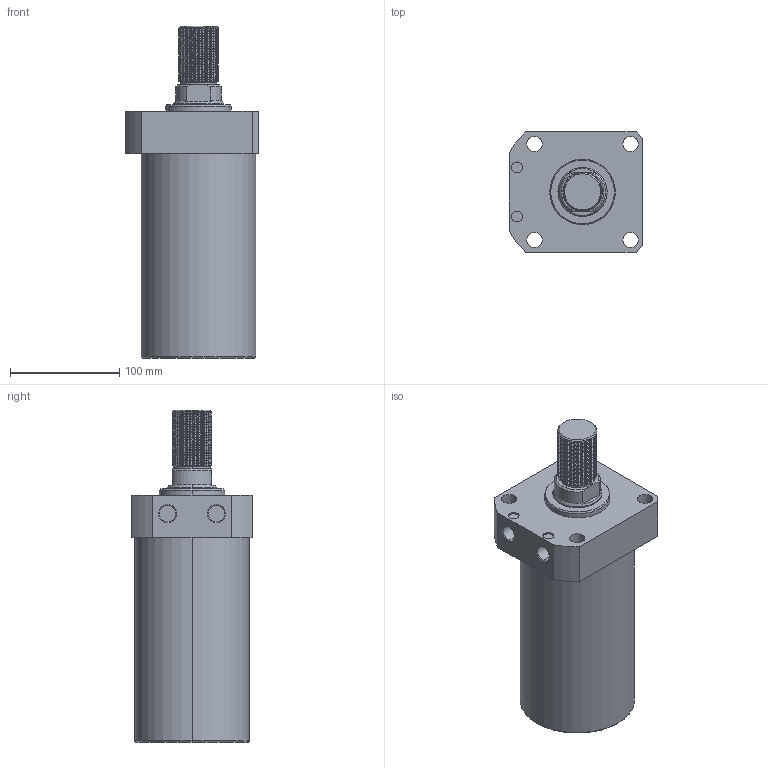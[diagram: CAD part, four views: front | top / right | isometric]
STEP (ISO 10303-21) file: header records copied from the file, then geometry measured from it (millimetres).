
FILE_DESCRIPTION (( 'STEP AP214' ), '1' );
FILE_NAME ('CLLR-105CT-140.STEP', '2020-01-10T06:03:02', ( 'Windows' ), ( 'Microsoft' ), 'SwSTEP 2.0', 'SolidWorks 2015', '' );
FILE_SCHEMA (( 'AUTOMOTIVE_DESIGN' ));
Length unit declared in the file: millimetre
Products named in the file (1): CLLR-105CT-140
Bounding box: 122 x 110 x 304 mm (x, y, z)
Volume: 2191769.9 mm3; surface area: 125910.3 mm2
Topology: 1 solids, 1 shells, 136 faces, 364 edges, 238 vertices
Faces by surface type: cylinder 96, plane 20, cone 16, torus 2, bspline 2
Entity records: 7970 total; most frequent: CARTESIAN_POINT 4843, ORIENTED_EDGE 728, DIRECTION 563, EDGE_CURVE 364, VERTEX_POINT 238, AXIS2_PLACEMENT_3D 215, EDGE_LOOP 152, FACE_OUTER_BOUND 136
